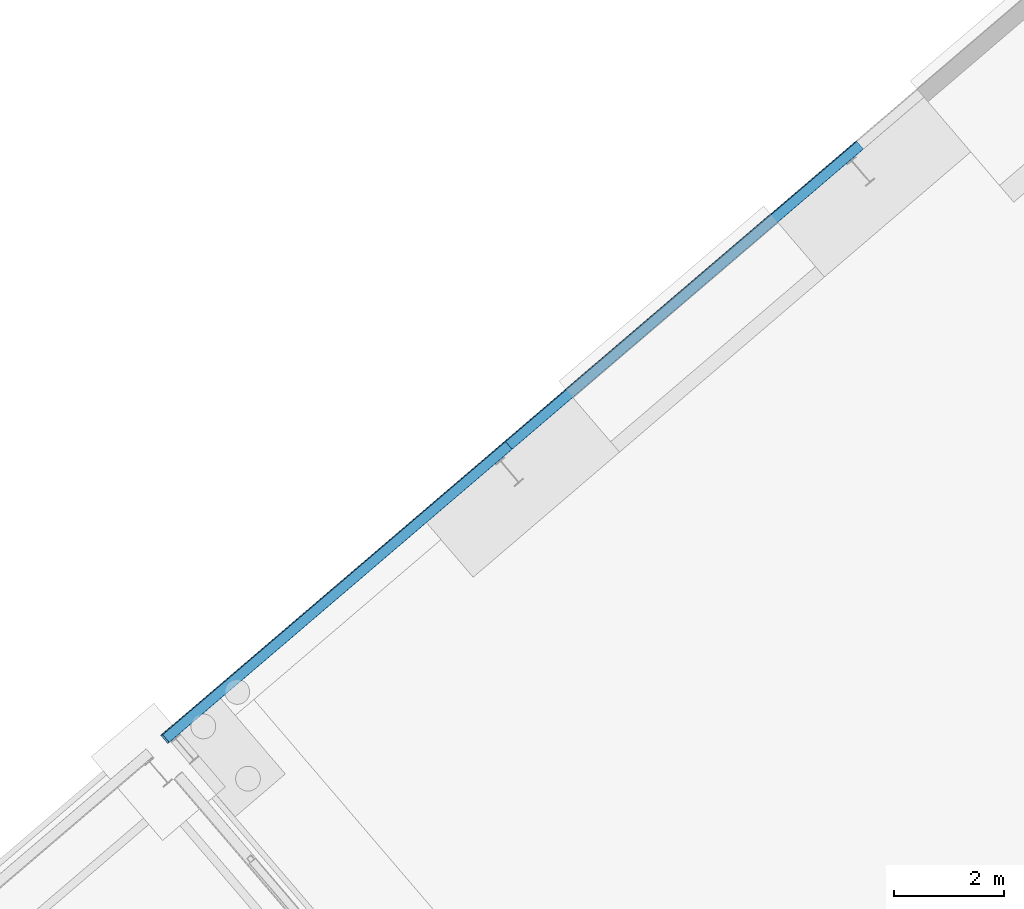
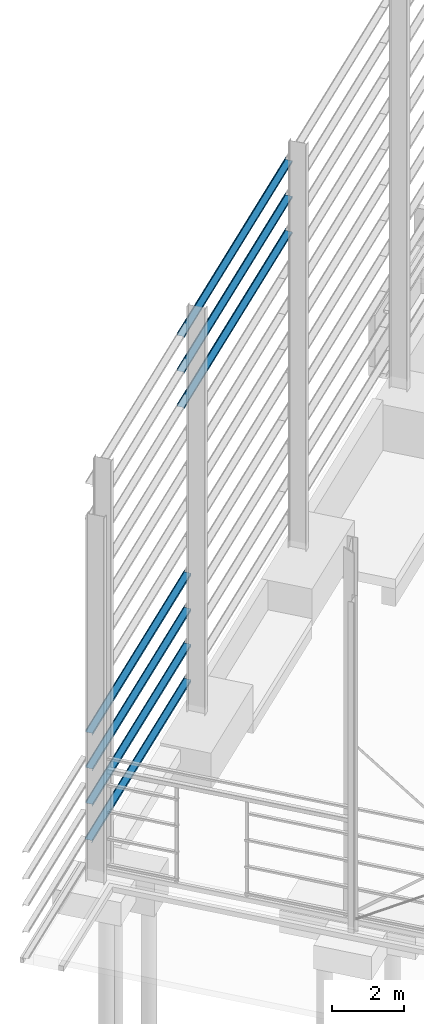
# One storey, part 16 of 41: 7 beams, 1 element without a shape of its own.
"""IFC2X3 building model written with IfcOpenShell, lengths in millimetres."""

from ifc_helpers import new_model, entity, si_unit, converted_unit, derived_unit, direction, frame, frame_2d, origin, place, context, subcontext, project, spatial, polyline, circle_curve, parameter, trimmed, segment, composite_curve, outline, extrude, material, type_object, element, aggregate, save


model = new_model("IFC2X3")

# Units and contexts
model_context = context("Model", 3, precision=0.01, world=origin(), true_north=direction((6.123031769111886e-17, 1.0)))
body_context = subcontext(model_context, "Body", "Model", "MODEL_VIEW")
ifc_project = project(units=[si_unit("LENGTHUNIT", "METRE", prefix="MILLI"), si_unit("AREAUNIT", "SQUARE_METRE"), si_unit("VOLUMEUNIT", "CUBIC_METRE"), converted_unit("PLANEANGLEUNIT", "DEGREE", entity("IfcRatioMeasure", 0.017453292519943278), si_unit("PLANEANGLEUNIT", "RADIAN"), dimensions=[0, 0, 0, 0, 0, 0, 0]), si_unit("MASSUNIT", "GRAM", prefix="KILO"), derived_unit("MASSDENSITYUNIT", [(si_unit("MASSUNIT", "GRAM", prefix="KILO"), 1), (si_unit("LENGTHUNIT", "METRE"), -3)]), derived_unit("MOMENTOFINERTIAUNIT", [(si_unit("LENGTHUNIT", "METRE"), 4)]), si_unit("TIMEUNIT", "SECOND"), si_unit("FREQUENCYUNIT", "HERTZ"), si_unit("THERMODYNAMICTEMPERATUREUNIT", "DEGREE_CELSIUS"), derived_unit("THERMALTRANSMITTANCEUNIT", [(si_unit("MASSUNIT", "GRAM", prefix="KILO"), 1), (si_unit("THERMODYNAMICTEMPERATUREUNIT", "KELVIN"), -1), (si_unit("TIMEUNIT", "SECOND"), -3)]), derived_unit("VOLUMETRICFLOWRATEUNIT", [(si_unit("LENGTHUNIT", "METRE"), 3), (si_unit("TIMEUNIT", "SECOND"), -1)]), derived_unit("MASSFLOWRATEUNIT", [(si_unit("MASSUNIT", "GRAM", prefix="KILO"), 1), (si_unit("TIMEUNIT", "SECOND"), -1)]), derived_unit("ROTATIONALFREQUENCYUNIT", [(si_unit("TIMEUNIT", "SECOND"), -1)]), si_unit("ELECTRICCURRENTUNIT", "AMPERE"), si_unit("ELECTRICVOLTAGEUNIT", "VOLT"), si_unit("POWERUNIT", "WATT"), si_unit("FORCEUNIT", "NEWTON", prefix="KILO"), si_unit("ILLUMINANCEUNIT", "LUX"), si_unit("LUMINOUSFLUXUNIT", "LUMEN"), si_unit("LUMINOUSINTENSITYUNIT", "CANDELA"), derived_unit("USERDEFINED", [(si_unit("MASSUNIT", "GRAM", prefix="KILO"), -1), (si_unit("LENGTHUNIT", "METRE"), -2), (si_unit("TIMEUNIT", "SECOND"), 3), (si_unit("LUMINOUSFLUXUNIT", "LUMEN"), 1)]), derived_unit("SOUNDPOWERUNIT", [(si_unit("MASSUNIT", "GRAM", prefix="KILO"), 1), (si_unit("LENGTHUNIT", "METRE"), 2), (si_unit("TIMEUNIT", "SECOND"), -3)]), derived_unit("LINEARVELOCITYUNIT", [(si_unit("LENGTHUNIT", "METRE"), 1), (si_unit("TIMEUNIT", "SECOND"), -1)]), si_unit("PRESSUREUNIT", "PASCAL"), derived_unit("USERDEFINED", [(si_unit("LENGTHUNIT", "METRE"), -2), (si_unit("MASSUNIT", "GRAM", prefix="KILO"), 1), (si_unit("TIMEUNIT", "SECOND"), -2)]), derived_unit("LINEARFORCEUNIT", [(si_unit("MASSUNIT", "GRAM", prefix="KILO"), 1), (si_unit("LENGTHUNIT", "METRE"), 1), (si_unit("TIMEUNIT", "SECOND"), -2), (si_unit("LENGTHUNIT", "METRE"), -1)]), derived_unit("PLANARFORCEUNIT", [(si_unit("MASSUNIT", "GRAM", prefix="KILO"), 1), (si_unit("LENGTHUNIT", "METRE"), 1), (si_unit("TIMEUNIT", "SECOND"), -2), (si_unit("LENGTHUNIT", "METRE"), -2)])], contexts=[model_context])

# Site, building, storey
site_placement = place(None, frame((962.4174930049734, -6014.433753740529, 0.0), z_axis=(0.0, 0.0, 1.0), x_axis=(0.7601792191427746, 0.649713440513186, 0.0)))
site = spatial("IfcSite", under=ifc_project, at=site_placement, Name="Default", CompositionType="ELEMENT")
building_placement = place(site_placement, origin())
building = spatial("IfcBuilding", under=site, at=building_placement, CompositionType="ELEMENT")
storey_placement = place(building_placement, origin())
storey = spatial("IfcBuildingStorey", under=building, at=storey_placement, Name="Datum", CompositionType="ELEMENT", Elevation=0.0)

# Assembly, beams
assembly_placement = place(building_placement, origin())
assembly = element("IfcElementAssembly", 1, at=assembly_placement, inside=storey, Name="Structural Beam System:Structural Beam System 1", ObjectType="Structural Beam System:Structural Beam System 1", AssemblyPlace="NOTDEFINED", PredefinedType="BEAM_GRID")
ifc_material = material(Name="Metal - Steel - 345 MPa")
beam_type = type_object("IfcBeamType", Name="ADSK_AU_Light Gauge-Zeds:Z20012", PredefinedType="NOTDEFINED")
beam_1_placement = place(building_placement, frame((162039.31020470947, 3669.071917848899, 12613.499999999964)))
beam_1 = element("IfcBeam", 2, at=beam_1_placement, type_object=beam_type, material=ifc_material, Name="ADSK_AU_Light Gauge-Zeds:Z20012", ObjectType="ADSK_AU_Light Gauge-Zeds:Z20012", context=body_context, shape_type="SweptSolid", body=[
    extrude(outline(composite_curve([segment(polyline([(6.439999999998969, -101.50000000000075), (63.23999999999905, -101.50000000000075)]), True, "CONTINUOUS"), segment(trimmed(circle_curve(frame_2d((63.23999999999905, -98.30000000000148), x_axis=(0.0, -1.0)), 3.199999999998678), [parameter(0.0)], [parameter(90.00000000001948)], True, "PARAMETER"), True, "CONTINUOUS"), segment(polyline([(66.4400000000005, -98.3000000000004), (66.4400000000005, -82.0)]), True, "CONTINUOUS"), segment(polyline([(66.4400000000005, -82.0), (65.24000000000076, -82.0)]), True, "CONTINUOUS"), segment(polyline([(65.2399999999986, -82.0), (65.2399999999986, -98.3000000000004)]), True, "CONTINUOUS"), segment(trimmed(circle_curve(frame_2d((63.23999999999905, -98.3000000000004), x_axis=(1.0, 0.0)), 1.9999999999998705), [parameter(269.9999999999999)], [parameter(0.0)], True, "PARAMETER"), False, "CONTINUOUS"), segment(polyline([(63.23999999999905, -100.30000000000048), (6.439999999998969, -100.30000000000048)]), True, "CONTINUOUS"), segment(trimmed(circle_curve(frame_2d((6.439999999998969, -98.3000000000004), x_axis=(0.0, -1.0)), 1.999999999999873), [parameter(269.9999999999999)], [parameter(0.0)], True, "PARAMETER"), False, "CONTINUOUS"), segment(polyline([(4.439999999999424, -98.3000000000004), (4.439999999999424, 98.29999999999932)]), True, "CONTINUOUS"), segment(trimmed(circle_curve(frame_2d((1.2400000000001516, 98.29999999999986), x_axis=(1.0, 0.0)), 3.199999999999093), [parameter(0.0)], [parameter(90.00000000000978)], True, "PARAMETER"), True, "CONTINUOUS"), segment(polyline([(1.2400000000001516, 101.49999999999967), (-68.35999999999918, 101.49999999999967)]), True, "CONTINUOUS"), segment(trimmed(circle_curve(frame_2d((-68.36000000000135, 98.3000000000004), x_axis=(0.0, 1.0)), 3.199999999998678), [parameter(0.0)], [parameter(90.00000000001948)], True, "PARAMETER"), True, "CONTINUOUS"), segment(polyline([(-71.56000000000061, 98.29999999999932), (-71.56000000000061, 82.0)]), True, "CONTINUOUS"), segment(polyline([(-71.56000000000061, 82.0), (-70.3600000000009, 82.0)]), True, "CONTINUOUS"), segment(polyline([(-70.3600000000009, 82.0), (-70.3600000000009, 98.29999999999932)]), True, "CONTINUOUS"), segment(trimmed(circle_curve(frame_2d((-68.36000000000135, 98.29999999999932), x_axis=(-1.0, 0.0)), 1.999999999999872), [parameter(269.9999999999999)], [parameter(0.0)], True, "PARAMETER"), False, "CONTINUOUS"), segment(polyline([(-68.36000000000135, 100.2999999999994), (1.2399999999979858, 100.2999999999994)]), True, "CONTINUOUS"), segment(trimmed(circle_curve(frame_2d((1.2400000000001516, 98.29999999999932), x_axis=(0.0, 1.0)), 1.999999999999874), [parameter(269.9999999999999)], [parameter(0.0)], True, "PARAMETER"), False, "CONTINUOUS"), segment(polyline([(3.2399999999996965, 98.29999999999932), (3.2399999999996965, -98.3000000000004)]), True, "CONTINUOUS"), segment(trimmed(circle_curve(frame_2d((6.439999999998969, -98.30000000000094), x_axis=(-1.0, 0.0)), 3.199999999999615), [parameter(0.0)], [parameter(90.00000000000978)], True, "PARAMETER"), True, "CONTINUOUS")], self_intersect=False)), frame((0.14999999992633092, 101.50000000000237, 4.439999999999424), z_axis=(1.0, 0.0, 0.0), x_axis=(0.0, 0.0, -1.0)), (0.0, 0.0, 1.0), 8999.000000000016),
])
beam_2_placement = place(building_placement, frame((162039.31020470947, 3669.071917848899, 11413.499999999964)))
beam_2 = element("IfcBeam", 3, at=beam_2_placement, type_object=beam_type, material=ifc_material, Name="ADSK_AU_Light Gauge-Zeds:Z20012", ObjectType="ADSK_AU_Light Gauge-Zeds:Z20012", context=body_context, shape_type="SweptSolid", body=[
    extrude(outline(composite_curve([segment(polyline([(6.440000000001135, -101.50000000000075), (63.24000000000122, -101.50000000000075)]), True, "CONTINUOUS"), segment(trimmed(circle_curve(frame_2d((63.24000000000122, -98.30000000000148), x_axis=(0.0, -1.0)), 3.199999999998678), [parameter(0.0)], [parameter(90.00000000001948)], True, "PARAMETER"), True, "CONTINUOUS"), segment(polyline([(66.44000000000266, -98.3000000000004), (66.44000000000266, -82.0)]), True, "CONTINUOUS"), segment(polyline([(66.44000000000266, -82.0), (65.24000000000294, -82.0)]), True, "CONTINUOUS"), segment(polyline([(65.24000000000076, -82.0), (65.24000000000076, -98.3000000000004)]), True, "CONTINUOUS"), segment(trimmed(circle_curve(frame_2d((63.24000000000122, -98.3000000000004), x_axis=(1.0, 0.0)), 1.9999999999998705), [parameter(269.9999999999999)], [parameter(0.0)], True, "PARAMETER"), False, "CONTINUOUS"), segment(polyline([(63.24000000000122, -100.30000000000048), (6.440000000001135, -100.30000000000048)]), True, "CONTINUOUS"), segment(trimmed(circle_curve(frame_2d((6.440000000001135, -98.3000000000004), x_axis=(0.0, -1.0)), 1.999999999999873), [parameter(269.9999999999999)], [parameter(0.0)], True, "PARAMETER"), False, "CONTINUOUS"), segment(polyline([(4.440000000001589, -98.3000000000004), (4.440000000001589, 98.29999999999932)]), True, "CONTINUOUS"), segment(trimmed(circle_curve(frame_2d((1.240000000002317, 98.29999999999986), x_axis=(1.0, 0.0)), 3.199999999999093), [parameter(0.0)], [parameter(90.00000000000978)], True, "PARAMETER"), True, "CONTINUOUS"), segment(polyline([(1.240000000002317, 101.49999999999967), (-68.35999999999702, 101.49999999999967)]), True, "CONTINUOUS"), segment(trimmed(circle_curve(frame_2d((-68.35999999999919, 98.3000000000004), x_axis=(0.0, 1.0)), 3.199999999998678), [parameter(0.0)], [parameter(90.00000000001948)], True, "PARAMETER"), True, "CONTINUOUS"), segment(polyline([(-71.55999999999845, 98.29999999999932), (-71.55999999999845, 82.0)]), True, "CONTINUOUS"), segment(polyline([(-71.55999999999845, 82.0), (-70.35999999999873, 82.0)]), True, "CONTINUOUS"), segment(polyline([(-70.35999999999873, 82.0), (-70.35999999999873, 98.29999999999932)]), True, "CONTINUOUS"), segment(trimmed(circle_curve(frame_2d((-68.35999999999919, 98.29999999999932), x_axis=(-1.0, 0.0)), 1.999999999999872), [parameter(269.9999999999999)], [parameter(0.0)], True, "PARAMETER"), False, "CONTINUOUS"), segment(polyline([(-68.35999999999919, 100.2999999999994), (1.2400000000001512, 100.2999999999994)]), True, "CONTINUOUS"), segment(trimmed(circle_curve(frame_2d((1.240000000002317, 98.29999999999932), x_axis=(0.0, 1.0)), 1.999999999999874), [parameter(269.9999999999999)], [parameter(0.0)], True, "PARAMETER"), False, "CONTINUOUS"), segment(polyline([(3.240000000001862, 98.29999999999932), (3.240000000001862, -98.3000000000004)]), True, "CONTINUOUS"), segment(trimmed(circle_curve(frame_2d((6.440000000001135, -98.30000000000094), x_axis=(-1.0, 0.0)), 3.199999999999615), [parameter(0.0)], [parameter(90.00000000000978)], True, "PARAMETER"), True, "CONTINUOUS")], self_intersect=False)), frame((0.14999999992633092, 101.50000000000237, 4.440000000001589), z_axis=(1.0, 0.0, 0.0), x_axis=(0.0, 0.0, -1.0)), (0.0, 0.0, 1.0), 8999.000000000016),
])
beam_3_placement = place(building_placement, frame((162039.31020470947, 3669.071917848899, 10213.499999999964)))
beam_3 = element("IfcBeam", 4, at=beam_3_placement, type_object=beam_type, material=ifc_material, Name="ADSK_AU_Light Gauge-Zeds:Z20012", ObjectType="ADSK_AU_Light Gauge-Zeds:Z20012", context=body_context, shape_type="SweptSolid", body=[
    extrude(outline(composite_curve([segment(polyline([(6.439999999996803, -101.50000000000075), (63.23999999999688, -101.50000000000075)]), True, "CONTINUOUS"), segment(trimmed(circle_curve(frame_2d((63.23999999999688, -98.30000000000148), x_axis=(0.0, -1.0)), 3.199999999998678), [parameter(0.0)], [parameter(90.00000000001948)], True, "PARAMETER"), True, "CONTINUOUS"), segment(polyline([(66.43999999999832, -98.3000000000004), (66.43999999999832, -82.0)]), True, "CONTINUOUS"), segment(polyline([(66.43999999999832, -82.0), (65.2399999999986, -82.0)]), True, "CONTINUOUS"), segment(polyline([(65.23999999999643, -82.0), (65.23999999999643, -98.3000000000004)]), True, "CONTINUOUS"), segment(trimmed(circle_curve(frame_2d((63.23999999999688, -98.3000000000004), x_axis=(1.0, 0.0)), 1.9999999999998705), [parameter(269.9999999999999)], [parameter(0.0)], True, "PARAMETER"), False, "CONTINUOUS"), segment(polyline([(63.23999999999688, -100.30000000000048), (6.439999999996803, -100.30000000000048)]), True, "CONTINUOUS"), segment(trimmed(circle_curve(frame_2d((6.439999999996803, -98.3000000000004), x_axis=(0.0, -1.0)), 1.999999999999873), [parameter(269.9999999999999)], [parameter(0.0)], True, "PARAMETER"), False, "CONTINUOUS"), segment(polyline([(4.439999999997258, -98.3000000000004), (4.439999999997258, 98.29999999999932)]), True, "CONTINUOUS"), segment(trimmed(circle_curve(frame_2d((1.2399999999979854, 98.29999999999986), x_axis=(1.0, 0.0)), 3.199999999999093), [parameter(0.0)], [parameter(90.00000000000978)], True, "PARAMETER"), True, "CONTINUOUS"), segment(polyline([(1.2399999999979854, 101.49999999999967), (-68.36000000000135, 101.49999999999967)]), True, "CONTINUOUS"), segment(trimmed(circle_curve(frame_2d((-68.36000000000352, 98.3000000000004), x_axis=(0.0, 1.0)), 3.199999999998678), [parameter(0.0)], [parameter(90.00000000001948)], True, "PARAMETER"), True, "CONTINUOUS"), segment(polyline([(-71.56000000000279, 98.29999999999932), (-71.56000000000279, 82.0)]), True, "CONTINUOUS"), segment(polyline([(-71.56000000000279, 82.0), (-70.36000000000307, 82.0)]), True, "CONTINUOUS"), segment(polyline([(-70.36000000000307, 82.0), (-70.36000000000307, 98.29999999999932)]), True, "CONTINUOUS"), segment(trimmed(circle_curve(frame_2d((-68.36000000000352, 98.29999999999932), x_axis=(-1.0, 0.0)), 1.999999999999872), [parameter(269.9999999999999)], [parameter(0.0)], True, "PARAMETER"), False, "CONTINUOUS"), segment(polyline([(-68.36000000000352, 100.2999999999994), (1.2399999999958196, 100.2999999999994)]), True, "CONTINUOUS"), segment(trimmed(circle_curve(frame_2d((1.2399999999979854, 98.29999999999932), x_axis=(0.0, 1.0)), 1.999999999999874), [parameter(269.9999999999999)], [parameter(0.0)], True, "PARAMETER"), False, "CONTINUOUS"), segment(polyline([(3.23999999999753, 98.29999999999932), (3.23999999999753, -98.3000000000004)]), True, "CONTINUOUS"), segment(trimmed(circle_curve(frame_2d((6.439999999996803, -98.30000000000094), x_axis=(-1.0, 0.0)), 3.199999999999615), [parameter(0.0)], [parameter(90.00000000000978)], True, "PARAMETER"), True, "CONTINUOUS")], self_intersect=False)), frame((0.14999999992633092, 101.50000000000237, 4.439999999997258), z_axis=(1.0, 0.0, 0.0), x_axis=(0.0, 0.0, -1.0)), (0.0, 0.0, 1.0), 8999.000000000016),
])
aggregate(assembly, [beam_1, beam_2, beam_3])

# Beams
beam_4_placement = place(building_placement, frame((154438.96020470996, 3872.0719178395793, 4227.499999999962)))
element("IfcBeam", 5, at=beam_4_placement, inside=storey, type_object=beam_type, material=ifc_material, Name="ADSK_AU_Light Gauge-Zeds:Z20012", ObjectType="ADSK_AU_Light Gauge-Zeds:Z20012", context=body_context, shape_type="SweptSolid", body=[
    extrude(outline(composite_curve([segment(polyline([(-1.2399999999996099, -101.5000000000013), (68.36000000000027, -101.5000000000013)]), True, "CONTINUOUS"), segment(trimmed(circle_curve(frame_2d((68.36000000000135, -98.30000000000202), x_axis=(0.0, -1.0)), 3.199999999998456), [parameter(0.0)], [parameter(90.00000000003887)], True, "PARAMETER"), True, "CONTINUOUS"), segment(polyline([(71.56000000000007, -98.30000000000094), (71.56000000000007, -82.0)]), True, "CONTINUOUS"), segment(polyline([(71.56000000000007, -82.0), (70.35999999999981, -82.0)]), True, "CONTINUOUS"), segment(polyline([(70.36000000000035, -82.0), (70.36000000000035, -98.30000000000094)]), True, "CONTINUOUS"), segment(trimmed(circle_curve(frame_2d((68.36000000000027, -98.30000000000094), x_axis=(1.0, 0.0)), 2.000000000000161), [parameter(269.9999999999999)], [parameter(0.0)], True, "PARAMETER"), False, "CONTINUOUS"), segment(polyline([(68.36000000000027, -100.30000000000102), (-1.2399999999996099, -100.30000000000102)]), True, "CONTINUOUS"), segment(trimmed(circle_curve(frame_2d((-1.2399999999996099, -98.30000000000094), x_axis=(0.0, -1.0)), 2.0000000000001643), [parameter(269.9999999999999)], [parameter(0.0)], True, "PARAMETER"), False, "CONTINUOUS"), segment(polyline([(-3.2399999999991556, -98.30000000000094), (-3.2399999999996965, 98.29999999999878)]), True, "CONTINUOUS"), segment(trimmed(circle_curve(frame_2d((-6.439999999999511, 98.29999999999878), x_axis=(1.0, 0.0)), 3.200000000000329), [parameter(0.0)], [parameter(90.00000000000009)], True, "PARAMETER"), True, "CONTINUOUS"), segment(polyline([(-6.439999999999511, 101.49999999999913), (-63.23999999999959, 101.49999999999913)]), True, "CONTINUOUS"), segment(trimmed(circle_curve(frame_2d((-63.24000000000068, 98.29999999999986), x_axis=(0.0, 1.0)), 3.199999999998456), [parameter(0.0)], [parameter(90.00000000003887)], True, "PARAMETER"), True, "CONTINUOUS"), segment(polyline([(-66.43999999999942, 98.29999999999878), (-66.43999999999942, 82.0)]), True, "CONTINUOUS"), segment(polyline([(-66.43999999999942, 82.0), (-65.23999999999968, 82.0)]), True, "CONTINUOUS"), segment(polyline([(-65.23999999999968, 82.0), (-65.23999999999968, 98.29999999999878)]), True, "CONTINUOUS"), segment(trimmed(circle_curve(frame_2d((-63.23999999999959, 98.29999999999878), x_axis=(-1.0, 0.0)), 2.0000000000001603), [parameter(269.9999999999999)], [parameter(0.0)], True, "PARAMETER"), False, "CONTINUOUS"), segment(polyline([(-63.23999999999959, 100.29999999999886), (-6.439999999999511, 100.29999999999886)]), True, "CONTINUOUS"), segment(trimmed(circle_curve(frame_2d((-6.439999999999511, 98.29999999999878), x_axis=(0.0, 1.0)), 2.000000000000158), [parameter(269.9999999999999)], [parameter(0.0)], True, "PARAMETER"), False, "CONTINUOUS"), segment(polyline([(-4.439999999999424, 98.29999999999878), (-4.439999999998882, -98.30000000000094)]), True, "CONTINUOUS"), segment(trimmed(circle_curve(frame_2d((-1.240000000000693, -98.30000000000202), x_axis=(-1.0, 0.0)), 3.1999999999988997), [parameter(0.0)], [parameter(90.00000000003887)], True, "PARAMETER"), True, "CONTINUOUS")], self_intersect=False)), frame((0.32499999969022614, -101.50000000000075, -4.439999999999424), z_axis=(1.0, 0.0, 0.0), x_axis=(0.0, 0.0, -1.0)), (0.0, 0.0, 1.0), 8199.000000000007),
])
beam_5_placement = place(building_placement, frame((154438.96020470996, 3872.0719178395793, 3027.499999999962)))
element("IfcBeam", 6, at=beam_5_placement, inside=storey, type_object=beam_type, material=ifc_material, Name="ADSK_AU_Light Gauge-Zeds:Z20012", ObjectType="ADSK_AU_Light Gauge-Zeds:Z20012", context=body_context, shape_type="SweptSolid", body=[
    extrude(outline(composite_curve([segment(polyline([(-1.2399999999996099, -101.5000000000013), (68.36000000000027, -101.5000000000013)]), True, "CONTINUOUS"), segment(trimmed(circle_curve(frame_2d((68.36000000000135, -98.30000000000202), x_axis=(0.0, -1.0)), 3.199999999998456), [parameter(0.0)], [parameter(90.00000000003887)], True, "PARAMETER"), True, "CONTINUOUS"), segment(polyline([(71.56000000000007, -98.30000000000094), (71.56000000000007, -82.0)]), True, "CONTINUOUS"), segment(polyline([(71.56000000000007, -82.0), (70.36000000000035, -82.0)]), True, "CONTINUOUS"), segment(polyline([(70.36000000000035, -82.0), (70.36000000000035, -98.30000000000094)]), True, "CONTINUOUS"), segment(trimmed(circle_curve(frame_2d((68.36000000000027, -98.30000000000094), x_axis=(1.0, 0.0)), 2.000000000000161), [parameter(269.9999999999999)], [parameter(0.0)], True, "PARAMETER"), False, "CONTINUOUS"), segment(polyline([(68.36000000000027, -100.30000000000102), (-1.2399999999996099, -100.30000000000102)]), True, "CONTINUOUS"), segment(trimmed(circle_curve(frame_2d((-1.2399999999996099, -98.30000000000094), x_axis=(0.0, -1.0)), 2.0000000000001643), [parameter(269.9999999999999)], [parameter(0.0)], True, "PARAMETER"), False, "CONTINUOUS"), segment(polyline([(-3.2399999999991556, -98.30000000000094), (-3.2399999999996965, 98.29999999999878)]), True, "CONTINUOUS"), segment(trimmed(circle_curve(frame_2d((-6.439999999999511, 98.29999999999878), x_axis=(1.0, 0.0)), 3.200000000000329), [parameter(0.0)], [parameter(90.00000000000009)], True, "PARAMETER"), True, "CONTINUOUS"), segment(polyline([(-6.439999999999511, 101.49999999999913), (-63.23999999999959, 101.49999999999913)]), True, "CONTINUOUS"), segment(trimmed(circle_curve(frame_2d((-63.24000000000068, 98.29999999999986), x_axis=(0.0, 1.0)), 3.199999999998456), [parameter(0.0)], [parameter(90.00000000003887)], True, "PARAMETER"), True, "CONTINUOUS"), segment(polyline([(-66.43999999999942, 98.29999999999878), (-66.43999999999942, 82.0)]), True, "CONTINUOUS"), segment(polyline([(-66.43999999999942, 82.0), (-65.23999999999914, 82.0)]), True, "CONTINUOUS"), segment(polyline([(-65.23999999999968, 82.0), (-65.23999999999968, 98.29999999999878)]), True, "CONTINUOUS"), segment(trimmed(circle_curve(frame_2d((-63.23999999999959, 98.29999999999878), x_axis=(-1.0, 0.0)), 2.0000000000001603), [parameter(269.9999999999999)], [parameter(0.0)], True, "PARAMETER"), False, "CONTINUOUS"), segment(polyline([(-63.23999999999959, 100.29999999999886), (-6.439999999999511, 100.29999999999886)]), True, "CONTINUOUS"), segment(trimmed(circle_curve(frame_2d((-6.439999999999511, 98.29999999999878), x_axis=(0.0, 1.0)), 2.000000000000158), [parameter(269.9999999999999)], [parameter(0.0)], True, "PARAMETER"), False, "CONTINUOUS"), segment(polyline([(-4.439999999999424, 98.29999999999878), (-4.439999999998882, -98.30000000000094)]), True, "CONTINUOUS"), segment(trimmed(circle_curve(frame_2d((-1.240000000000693, -98.30000000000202), x_axis=(-1.0, 0.0)), 3.1999999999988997), [parameter(0.0)], [parameter(90.00000000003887)], True, "PARAMETER"), True, "CONTINUOUS")], self_intersect=False)), frame((0.32499999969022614, -101.50000000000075, -4.439999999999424), z_axis=(1.0, 0.0, 0.0), x_axis=(0.0, 0.0, -1.0)), (0.0, 0.0, 1.0), 8199.000000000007),
])
beam_6_placement = place(building_placement, frame((154438.96020470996, 3872.0719178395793, 1827.499999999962)))
element("IfcBeam", 7, at=beam_6_placement, inside=storey, type_object=beam_type, material=ifc_material, Name="ADSK_AU_Light Gauge-Zeds:Z20012", ObjectType="ADSK_AU_Light Gauge-Zeds:Z20012", context=body_context, shape_type="SweptSolid", body=[
    extrude(outline(composite_curve([segment(polyline([(-1.2399999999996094, -101.5000000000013), (68.36000000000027, -101.5000000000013)]), True, "CONTINUOUS"), segment(trimmed(circle_curve(frame_2d((68.36000000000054, -98.30000000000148), x_axis=(0.0, -1.0)), 3.1999999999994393), [parameter(0.0)], [parameter(90.00000000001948)], True, "PARAMETER"), True, "CONTINUOUS"), segment(polyline([(71.56000000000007, -98.30000000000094), (71.56000000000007, -82.0)]), True, "CONTINUOUS"), segment(polyline([(71.56000000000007, -82.0), (70.36000000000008, -82.0)]), True, "CONTINUOUS"), segment(polyline([(70.36000000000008, -82.0), (70.36000000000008, -98.30000000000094)]), True, "CONTINUOUS"), segment(trimmed(circle_curve(frame_2d((68.36, -98.30000000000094), x_axis=(1.0, 0.0)), 2.000000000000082), [parameter(269.9999999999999)], [parameter(0.0)], True, "PARAMETER"), False, "CONTINUOUS"), segment(polyline([(68.36, -100.30000000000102), (-1.2399999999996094, -100.30000000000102)]), True, "CONTINUOUS"), segment(trimmed(circle_curve(frame_2d((-1.2399999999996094, -98.30000000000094), x_axis=(0.0, -1.0)), 2.0000000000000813), [parameter(269.9999999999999)], [parameter(0.0)], True, "PARAMETER"), False, "CONTINUOUS"), segment(polyline([(-3.2399999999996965, -98.30000000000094), (-3.239999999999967, 98.29999999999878)]), True, "CONTINUOUS"), segment(trimmed(circle_curve(frame_2d((-6.440000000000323, 98.29999999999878), x_axis=(1.0, 0.0)), 3.2000000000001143), [parameter(0.0)], [parameter(90.00000000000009)], True, "PARAMETER"), True, "CONTINUOUS"), segment(polyline([(-6.440000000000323, 101.49999999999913), (-63.2400000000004, 101.49999999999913)]), True, "CONTINUOUS"), segment(trimmed(circle_curve(frame_2d((-63.24000000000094, 98.29999999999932), x_axis=(0.0, 1.0)), 3.1999999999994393), [parameter(0.0)], [parameter(90.00000000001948)], True, "PARAMETER"), True, "CONTINUOUS"), segment(polyline([(-66.4400000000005, 98.29999999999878), (-66.4400000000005, 82.0)]), True, "CONTINUOUS"), segment(polyline([(-66.4400000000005, 82.0), (-65.24000000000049, 82.0)]), True, "CONTINUOUS"), segment(polyline([(-65.24000000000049, 82.0), (-65.24000000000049, 98.29999999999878)]), True, "CONTINUOUS"), segment(trimmed(circle_curve(frame_2d((-63.2400000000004, 98.29999999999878), x_axis=(-1.0, 0.0)), 2.0000000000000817), [parameter(269.9999999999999)], [parameter(0.0)], True, "PARAMETER"), False, "CONTINUOUS"), segment(polyline([(-63.2400000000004, 100.29999999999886), (-6.440000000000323, 100.29999999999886)]), True, "CONTINUOUS"), segment(trimmed(circle_curve(frame_2d((-6.440000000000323, 98.29999999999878), x_axis=(0.0, 1.0)), 2.0000000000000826), [parameter(269.9999999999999)], [parameter(0.0)], True, "PARAMETER"), False, "CONTINUOUS"), segment(polyline([(-4.440000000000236, 98.29999999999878), (-4.439999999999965, -98.30000000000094)]), True, "CONTINUOUS"), segment(trimmed(circle_curve(frame_2d((-1.2399999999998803, -98.30000000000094), x_axis=(-1.0, 0.0)), 3.199999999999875), [parameter(0.0)], [parameter(90.00000000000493)], True, "PARAMETER"), True, "CONTINUOUS")], self_intersect=False)), frame((0.32499999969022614, -101.50000000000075, -4.439999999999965), z_axis=(1.0, 0.0, 0.0), x_axis=(0.0, 0.0, -1.0)), (0.0, 0.0, 1.0), 8199.000000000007),
])
beam_7_placement = place(building_placement, frame((154403.61020470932, 3872.0719178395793, 627.4999999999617)))
element("IfcBeam", 8, at=beam_7_placement, inside=storey, type_object=beam_type, material=ifc_material, Name="ADSK_AU_Light Gauge-Zeds:Z20012", ObjectType="ADSK_AU_Light Gauge-Zeds:Z20012", context=body_context, shape_type="SweptSolid", body=[
    extrude(outline(composite_curve([segment(polyline([(-1.2399999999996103, -101.5000000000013), (68.36000000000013, -101.5000000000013)]), True, "CONTINUOUS"), segment(trimmed(circle_curve(frame_2d((68.36000000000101, -98.30000000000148), x_axis=(0.0, -1.0)), 3.1999999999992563), [parameter(0.0)], [parameter(90.00000000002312)], True, "PARAMETER"), True, "CONTINUOUS"), segment(polyline([(71.56000000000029, -98.30000000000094), (71.56000000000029, -82.0)]), True, "CONTINUOUS"), segment(polyline([(71.56000000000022, -82.0), (70.36000000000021, -82.0)]), True, "CONTINUOUS"), segment(polyline([(70.36000000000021, -82.0), (70.36000000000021, -98.30000000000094)]), True, "CONTINUOUS"), segment(trimmed(circle_curve(frame_2d((68.3600000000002, -98.30000000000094), x_axis=(1.0, 0.0)), 2.000000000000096), [parameter(270.0000000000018)], [parameter(0.0)], True, "PARAMETER"), False, "CONTINUOUS"), segment(polyline([(68.36000000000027, -100.30000000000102), (-1.2399999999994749, -100.30000000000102)]), True, "CONTINUOUS"), segment(trimmed(circle_curve(frame_2d((-1.2399999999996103, -98.30000000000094), x_axis=(0.0, -1.0)), 2.000000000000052), [parameter(269.9999999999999)], [parameter(0.0)], True, "PARAMETER"), False, "CONTINUOUS"), segment(polyline([(-3.2399999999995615, -98.30000000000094), (-3.2399999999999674, 98.29999999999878)]), True, "CONTINUOUS"), segment(trimmed(circle_curve(frame_2d((-6.440000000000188, 98.29999999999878), x_axis=(1.0, 0.0)), 3.2000000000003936), [parameter(0.0)], [parameter(89.99999999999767)], True, "PARAMETER"), True, "CONTINUOUS"), segment(polyline([(-6.440000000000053, 101.49999999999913), (-63.24000000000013, 101.49999999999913)]), True, "CONTINUOUS"), segment(trimmed(circle_curve(frame_2d((-63.240000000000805, 98.29999999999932), x_axis=(0.0, 1.0)), 3.199999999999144), [parameter(0.0)], [parameter(90.00000000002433)], True, "PARAMETER"), True, "CONTINUOUS"), segment(polyline([(-66.44000000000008, 98.29999999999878), (-66.44000000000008, 82.0)]), True, "CONTINUOUS"), segment(polyline([(-66.44000000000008, 82.0), (-65.24000000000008, 82.0)]), True, "CONTINUOUS"), segment(polyline([(-65.24000000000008, 82.0), (-65.24000000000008, 98.29999999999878)]), True, "CONTINUOUS"), segment(trimmed(circle_curve(frame_2d((-63.239999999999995, 98.29999999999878), x_axis=(-1.0, 0.0)), 2.0000000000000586), [parameter(270.00000000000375)], [parameter(0.0)], True, "PARAMETER"), False, "CONTINUOUS"), segment(polyline([(-63.24000000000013, 100.29999999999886), (-6.440000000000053, 100.29999999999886)]), True, "CONTINUOUS"), segment(trimmed(circle_curve(frame_2d((-6.440000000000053, 98.29999999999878), x_axis=(0.0, 1.0)), 2.000000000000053), [parameter(269.9999999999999)], [parameter(0.0)], True, "PARAMETER"), False, "CONTINUOUS"), segment(polyline([(-4.43999999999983, 98.29999999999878), (-4.439999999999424, -98.30000000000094)]), True, "CONTINUOUS"), segment(trimmed(circle_curve(frame_2d((-1.2400000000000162, -98.30000000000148), x_axis=(-1.0, 0.0)), 3.1999999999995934), [parameter(0.0)], [parameter(90.00000000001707)], True, "PARAMETER"), True, "CONTINUOUS")], self_intersect=False)), frame((1.4499999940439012, -101.50000000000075, -4.439999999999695), z_axis=(1.0, 0.0, 0.0), x_axis=(0.0, 0.0, -1.0)), (0.0, 0.0, 1.0), 8233.550000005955),
])

save(model, "model.ifc")
